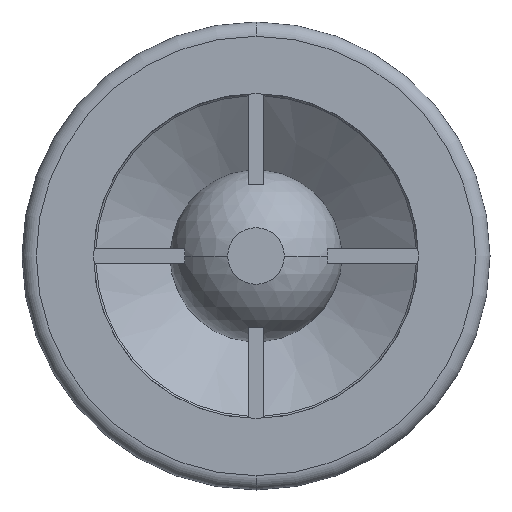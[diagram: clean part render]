
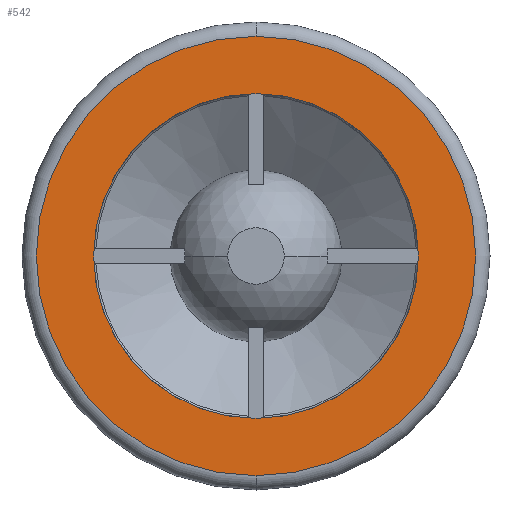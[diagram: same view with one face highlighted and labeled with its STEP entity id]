
A CAD part, front view. The second image highlights one B-rep face of the part: STEP entity #542.
In plain terms, the highlighted planar face has unit normal (0, -1, 0).
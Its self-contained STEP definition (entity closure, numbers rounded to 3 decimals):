
#306 = EDGE_CURVE ( 'NONE', #307, #308, #1644, .T. ) ;
#307 = VERTEX_POINT ( 'NONE', #1636 ) ;
#308 = VERTEX_POINT ( 'NONE', #1635 ) ;
#333 = VERTEX_POINT ( 'NONE', #1499 ) ;
#335 = EDGE_CURVE ( 'NONE', #333, #336, #1498, .T. ) ;
#336 = VERTEX_POINT ( 'NONE', #1675 ) ;
#489 = EDGE_CURVE ( 'NONE', #336, #333, #1985, .T. ) ;
#493 = ORIENTED_EDGE ( 'NONE', *, *, #489, .F. ) ;
#494 = ORIENTED_EDGE ( 'NONE', *, *, #335, .F. ) ;
#542 = ADVANCED_FACE ( 'NONE', ( #1953, #1952 ), #1951, .F. ) ;
#543 = EDGE_LOOP ( 'NONE', ( #544, #546 ) ) ;
#544 = ORIENTED_EDGE ( 'NONE', *, *, #545, .T. ) ;
#545 = EDGE_CURVE ( 'NONE', #308, #307, #1945, .T. ) ;
#546 = ORIENTED_EDGE ( 'NONE', *, *, #306, .T. ) ;
#547 = EDGE_LOOP ( 'NONE', ( #493, #494 ) ) ;
#1494 = DIRECTION ( 'NONE',  ( 0., 0., -1. ) ) ;
#1495 = DIRECTION ( 'NONE',  ( 0., -1., 0. ) ) ;
#1496 = CARTESIAN_POINT ( 'NONE',  ( 0., 0., 0. ) ) ;
#1497 = AXIS2_PLACEMENT_3D ( 'NONE', #1496, #1495, #1494 ) ;
#1498 = CIRCLE ( 'NONE', #1497, 17. ) ;
#1499 = CARTESIAN_POINT ( 'NONE',  ( 0., 0., 17. ) ) ;
#1635 = CARTESIAN_POINT ( 'NONE',  ( 0., 0., 23. ) ) ;
#1636 = CARTESIAN_POINT ( 'NONE',  ( 0., 0., -23. ) ) ;
#1637 = DIRECTION ( 'NONE',  ( 0., 0., 1. ) ) ;
#1638 = DIRECTION ( 'NONE',  ( 0., -1., 0. ) ) ;
#1639 = CARTESIAN_POINT ( 'NONE',  ( 0., 0., 0. ) ) ;
#1640 = AXIS2_PLACEMENT_3D ( 'NONE', #1639, #1638, #1637 ) ;
#1644 = CIRCLE ( 'NONE', #1640, 23. ) ;
#1675 = CARTESIAN_POINT ( 'NONE',  ( 0., 0., -17. ) ) ;
#1942 = DIRECTION ( 'NONE',  ( 0., 0., 1. ) ) ;
#1943 = DIRECTION ( 'NONE',  ( 0., -1., 0. ) ) ;
#1944 = AXIS2_PLACEMENT_3D ( 'NONE', #1949, #1943, #1942 ) ;
#1945 = CIRCLE ( 'NONE', #1944, 23. ) ;
#1946 = DIRECTION ( 'NONE',  ( 0., 0., 1. ) ) ;
#1947 = DIRECTION ( 'NONE',  ( 0., 1., 0. ) ) ;
#1948 = CARTESIAN_POINT ( 'NONE',  ( -17., 0., 0. ) ) ;
#1949 = CARTESIAN_POINT ( 'NONE',  ( 0., 0., 0. ) ) ;
#1950 = AXIS2_PLACEMENT_3D ( 'NONE', #1948, #1947, #1946 ) ;
#1951 = PLANE ( 'NONE',  #1950 ) ;
#1952 = FACE_BOUND ( 'NONE', #547, .T. ) ;
#1953 = FACE_OUTER_BOUND ( 'NONE', #543, .T. ) ;
#1982 = DIRECTION ( 'NONE',  ( 0., 0., -1. ) ) ;
#1983 = DIRECTION ( 'NONE',  ( 0., -1., 0. ) ) ;
#1984 = AXIS2_PLACEMENT_3D ( 'NONE', #1991, #1983, #1982 ) ;
#1985 = CIRCLE ( 'NONE', #1984, 17. ) ;
#1991 = CARTESIAN_POINT ( 'NONE',  ( 0., 0., 0. ) ) ;
